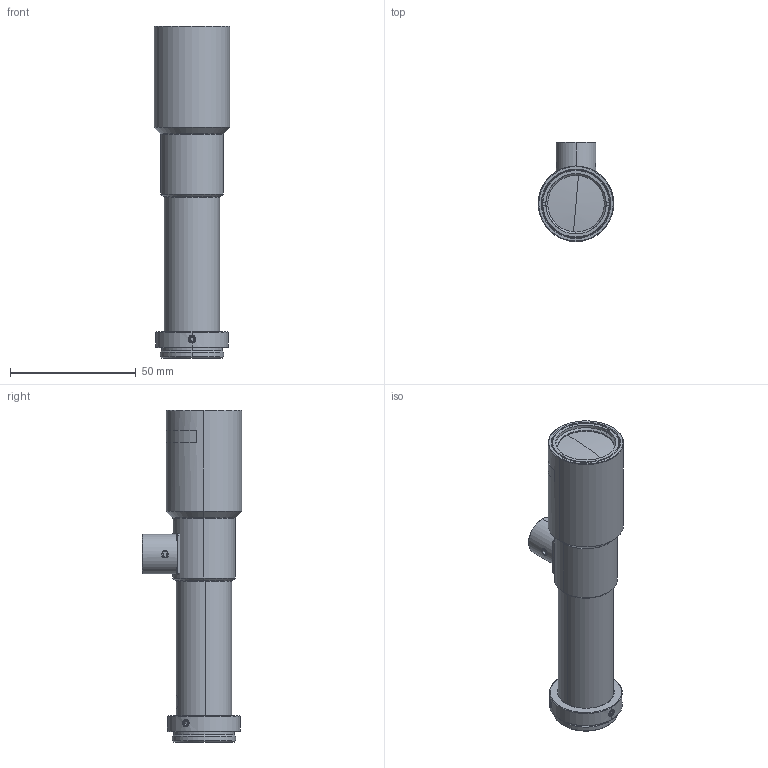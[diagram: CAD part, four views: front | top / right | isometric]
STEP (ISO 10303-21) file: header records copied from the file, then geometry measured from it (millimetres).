
FILE_DESCRIPTION (( 'STEP AP214' ), '1' );
FILE_NAME ('TEC-M15110MPC_210312.STEP', '2021-03-12T04:21:30', ( '' ), ( '' ), 'SwSTEP 2.0', 'SolidWorks 2019', '' );
FILE_SCHEMA (( 'AUTOMOTIVE_DESIGN' ));
Length unit declared in the file: millimetre
Products named in the file (1): TEC-M15110MPC_210312
Bounding box: 30 x 39.5 x 132 mm (x, y, z)
Volume: 36561.2 mm3; surface area: 28205.4 mm2
Topology: 17 solids, 17 shells, 516 faces, 1217 edges, 756 vertices
Faces by surface type: plane 201, cone 140, cylinder 139, torus 16, sphere 12, bspline 8
Entity records: 22308 total; most frequent: CARTESIAN_POINT 4311, DIRECTION 2677, ORIENTED_EDGE 2418, EDGE_CURVE 1209, AXIS2_PLACEMENT_3D 1073, VERTEX_POINT 756, EDGE_LOOP 585, CIRCLE 564
